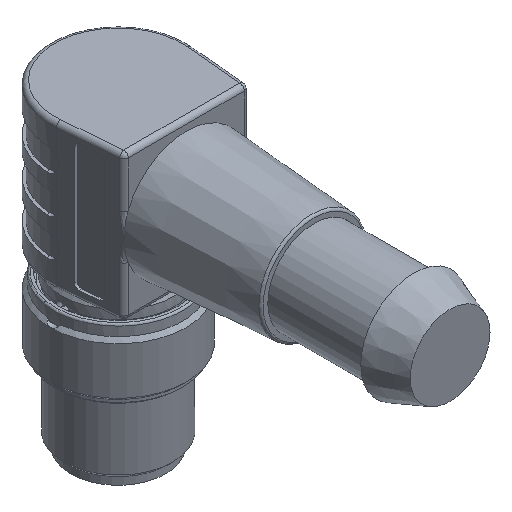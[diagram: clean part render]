
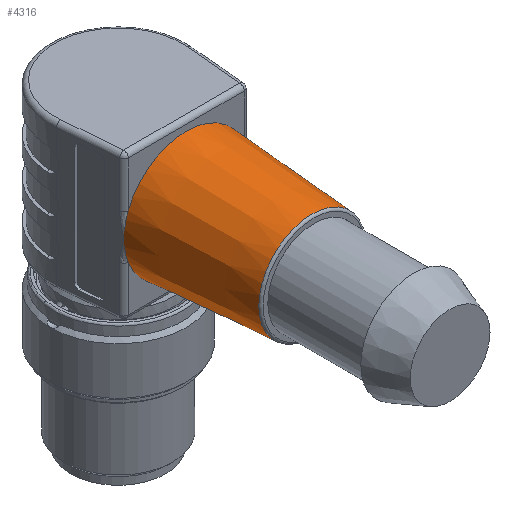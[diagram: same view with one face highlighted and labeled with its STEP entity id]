
A CAD part, isometric view. The second image highlights one B-rep face of the part: STEP entity #4316.
In plain terms, the highlighted conical face has half-angle 4.057 degrees and reference radius 6.358 mm.
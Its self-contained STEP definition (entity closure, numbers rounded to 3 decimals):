
#3445=CARTESIAN_POINT('',(-6.393,25.1,2.459));
#3446=VERTEX_POINT('',#3445);
#3525=CARTESIAN_POINT('',(6.393,25.1,2.459));
#3526=VERTEX_POINT('',#3525);
#3586=CARTESIAN_POINT('',(6.85,25.1,0.0));
#3587=VERTEX_POINT('',#3586);
#3588=CARTESIAN_POINT('',(0.0,25.1,0.0));
#3589=DIRECTION('',(0.0,-1.0,0.0));
#3590=DIRECTION('',(1.0,0.0,0.0));
#3591=AXIS2_PLACEMENT_3D('',#3588,#3589,#3590);
#3592=CIRCLE('',#3591,6.85);
#3593=EDGE_CURVE('',#3587,#3526,#3592,.T.);
#3631=CARTESIAN_POINT('',(6.393,25.1,-2.459));
#3632=VERTEX_POINT('',#3631);
#3684=CARTESIAN_POINT('',(0.0,25.1,0.0));
#3685=DIRECTION('',(0.0,-1.0,0.0));
#3686=DIRECTION('',(1.0,0.0,0.0));
#3687=AXIS2_PLACEMENT_3D('',#3684,#3685,#3686);
#3688=CIRCLE('',#3687,6.85);
#3689=EDGE_CURVE('',#3632,#3587,#3688,.T.);
#3799=CARTESIAN_POINT('',(-6.393,25.1,-2.459));
#3800=VERTEX_POINT('',#3799);
#3868=CARTESIAN_POINT('',(-6.85,25.1,0.0));
#3869=VERTEX_POINT('',#3868);
#3879=CARTESIAN_POINT('',(0.0,25.1,0.0));
#3880=DIRECTION('',(0.0,-1.0,0.0));
#3881=DIRECTION('',(1.0,0.0,0.0));
#3882=AXIS2_PLACEMENT_3D('',#3879,#3880,#3881);
#3883=CIRCLE('',#3882,6.85);
#3884=EDGE_CURVE('',#3446,#3869,#3883,.T.);
#3915=CARTESIAN_POINT('',(0.0,25.1,0.0));
#3916=DIRECTION('',(0.0,-1.0,0.0));
#3917=DIRECTION('',(1.0,0.0,0.0));
#3918=AXIS2_PLACEMENT_3D('',#3915,#3916,#3917);
#3919=CIRCLE('',#3918,6.85);
#3920=EDGE_CURVE('',#3869,#3800,#3919,.T.);
#3942=CARTESIAN_POINT('',(0.0,25.1,0.0));
#3943=DIRECTION('',(0.0,-1.0,0.0));
#3944=DIRECTION('',(1.0,0.0,0.0));
#3945=AXIS2_PLACEMENT_3D('',#3942,#3943,#3944);
#3946=CIRCLE('',#3945,6.85);
#3947=EDGE_CURVE('',#3526,#3446,#3946,.T.);
#4087=CARTESIAN_POINT('',(0.0,25.1,0.0));
#4088=DIRECTION('',(0.0,-1.0,0.0));
#4089=DIRECTION('',(1.0,0.0,0.0));
#4090=AXIS2_PLACEMENT_3D('',#4087,#4088,#4089);
#4091=CIRCLE('',#4090,6.85);
#4092=EDGE_CURVE('',#3800,#3632,#4091,.T.);
#4292=CARTESIAN_POINT('',(0.0,18.166,0.0));
#4293=DIRECTION('',(0.0,1.0,0.0));
#4294=DIRECTION('',(1.0,0.0,0.0));
#4295=AXIS2_PLACEMENT_3D('',#4292,#4293,#4294);
#4296=CONICAL_SURFACE('',#4295,6.358,4.057);
#4297=CARTESIAN_POINT('',(5.866,11.232,0.0));
#4298=VERTEX_POINT('',#4297);
#4299=CARTESIAN_POINT('',(0.0,11.232,0.0));
#4300=DIRECTION('',(0.0,-1.0,0.0));
#4301=DIRECTION('',(1.0,0.0,0.0));
#4302=AXIS2_PLACEMENT_3D('',#4299,#4300,#4301);
#4303=CIRCLE('',#4302,5.866);
#4304=EDGE_CURVE('',#4298,#4298,#4303,.T.);
#4305=ORIENTED_EDGE('',*,*,#4304,.F.);
#4306=EDGE_LOOP('',(#4305));
#4307=FACE_OUTER_BOUND('',#4306,.T.);
#4308=ORIENTED_EDGE('',*,*,#3593,.T.);
#4309=ORIENTED_EDGE('',*,*,#3947,.T.);
#4310=ORIENTED_EDGE('',*,*,#3884,.T.);
#4311=ORIENTED_EDGE('',*,*,#3920,.T.);
#4312=ORIENTED_EDGE('',*,*,#4092,.T.);
#4313=ORIENTED_EDGE('',*,*,#3689,.T.);
#4314=EDGE_LOOP('',(#4308,#4309,#4310,#4311,#4312,#4313));
#4315=FACE_BOUND('',#4314,.T.);
#4316=ADVANCED_FACE('',(#4307,#4315),#4296,.T.);
